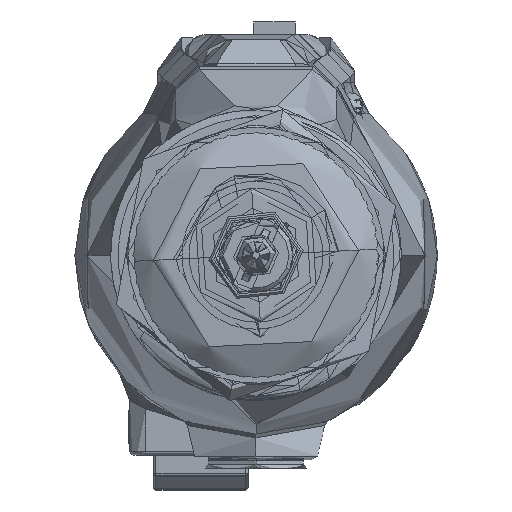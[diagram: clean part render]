
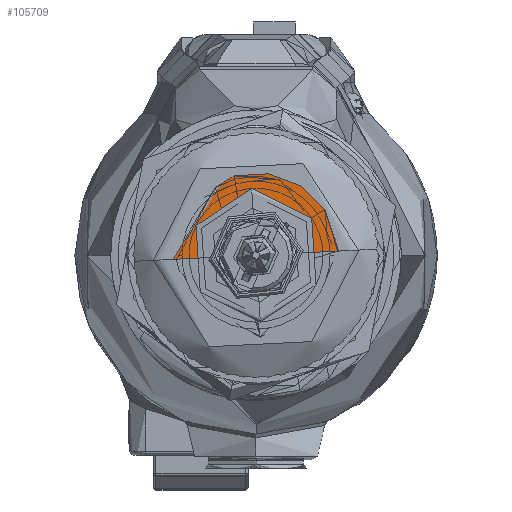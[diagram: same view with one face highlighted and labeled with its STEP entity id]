
A CAD part, front view. The second image highlights one B-rep face of the part: STEP entity #105709.
In plain terms, the highlighted conical face has half-angle 45 degrees and reference radius 10.022 mm.
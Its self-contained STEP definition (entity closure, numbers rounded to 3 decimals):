
#3598 = CARTESIAN_POINT ( 'NONE',  ( 25.6, -1.378, -10.525 ) ) ;
#4949 = CARTESIAN_POINT ( 'NONE',  ( 25.6, -5.301, 9.197 ) ) ;
#5216 = CARTESIAN_POINT ( 'NONE',  ( 25.097, 0., -10.022 ) ) ;
#5719 = CARTESIAN_POINT ( 'NONE',  ( 25.6, -10.525, -1.378 ) ) ;
#7328 = CARTESIAN_POINT ( 'NONE',  ( 25.132, -6.648, -7.6 ) ) ;
#7657 = CARTESIAN_POINT ( 'NONE',  ( 25.196, 0., -10.121 ) ) ;
#8214 = EDGE_CURVE ( 'NONE', #27287, #114881, #52422, .T. ) ;
#11326 = CARTESIAN_POINT ( 'NONE',  ( 25.517, -4.515, 9.461 ) ) ;
#13109 = CARTESIAN_POINT ( 'NONE',  ( 25.6, -10.251, -2.755 ) ) ;
#13924 = CARTESIAN_POINT ( 'NONE',  ( 25.525, -5.319, 8.995 ) ) ;
#14321 = CARTESIAN_POINT ( 'NONE',  ( 25.6, -2.755, 10.251 ) ) ;
#15440 = CARTESIAN_POINT ( 'NONE',  ( 25.1, 0., 0. ) ) ;
#16967 = CARTESIAN_POINT ( 'NONE',  ( 25.525, -10.198, -2.28 ) ) ;
#17699 = CARTESIAN_POINT ( 'NONE',  ( 25.097, 0., 10.022 ) ) ;
#18576 = CARTESIAN_POINT ( 'NONE',  ( 25.1, -9.356, 3.602 ) ) ;
#23365 = VERTEX_POINT ( 'NONE', #56411 ) ;
#23721 = CARTESIAN_POINT ( 'NONE',  ( 25.6, -9.197, 5.301 ) ) ;
#24493 = CARTESIAN_POINT ( 'NONE',  ( 25.156, -4.396, -9.117 ) ) ;
#24735 = CARTESIAN_POINT ( 'NONE',  ( 25.1, -9.356, 3.602 ) ) ;
#24864 = CARTESIAN_POINT ( 'NONE',  ( 25.525, 0., 0. ) ) ;
#25568 = B_SPLINE_CURVE_WITH_KNOTS ( 'NONE', 3,
 ( #103782, #11326, #30019, #113150, #114372, #57309 ),
 .UNSPECIFIED., .F., .F.,
 ( 4, 2, 4 ),
 ( 0., 0.056, 0.112 ),
 .UNSPECIFIED. ) ;
#27286 = EDGE_CURVE ( 'NONE', #31734, #23365, #63490, .T. ) ;
#27287 = VERTEX_POINT ( 'NONE', #99840 ) ;
#28415 = ORIENTED_EDGE ( 'NONE', *, *, #8214, .T. ) ;
#30019 = CARTESIAN_POINT ( 'NONE',  ( 25.509, -3.648, 9.819 ) ) ;
#31734 = VERTEX_POINT ( 'NONE', #7657 ) ;
#32630 = FACE_OUTER_BOUND ( 'NONE', #54611, .T. ) ;
#33670 = CARTESIAN_POINT ( 'NONE',  ( 25.6, 0., -10.525 ) ) ;
#34181 = DIRECTION ( 'NONE',  ( -1., 0., 0. ) ) ;
#35415 = CARTESIAN_POINT ( 'NONE',  ( 25.164, -3.559, -9.484 ) ) ;
#38204 = ORIENTED_EDGE ( 'NONE', *, *, #87299, .F. ) ;
#39947 = VECTOR ( 'NONE', #84063, 1000. ) ;
#40268 = CIRCLE ( 'NONE', #114120, 10.45 ) ;
#41201 = CARTESIAN_POINT ( 'NONE',  ( 25.6, -8.416, -6.468 ) ) ;
#44271 = LINE ( 'NONE', #17699, #39947 ) ;
#47763 = EDGE_CURVE ( 'NONE', #82704, #81748, #25568, .T. ) ;
#48144 = ORIENTED_EDGE ( 'NONE', *, *, #120659, .T. ) ;
#51753 = CARTESIAN_POINT ( 'NONE',  ( 25.196, 0., -10.121 ) ) ;
#52082 = EDGE_CURVE ( 'NONE', #106156, #23365, #71765, .T. ) ;
#52147 = CARTESIAN_POINT ( 'NONE',  ( 25.6, -8.416, 6.468 ) ) ;
#52422 = B_SPLINE_CURVE_WITH_KNOTS ( 'NONE', 3,
 ( #116185, #87691, #14321, #4949, #70141, #52147, #23721, #61564, #88894, #5719, #13109, #78288, #41201, #59968, #120176, #57768, #3598, #33670 ),
 .UNSPECIFIED., .F., .F.,
 ( 4, 2, 2, 2, 2, 2, 2, 2, 4 ),
 ( 0.25, 0.313, 0.375, 0.438, 0.5, 0.563, 0.625, 0.688, 0.75 ),
 .UNSPECIFIED. ) ;
#54407 = CARTESIAN_POINT ( 'NONE',  ( 25.383, -10.352, -0.239 ) ) ;
#54611 = EDGE_LOOP ( 'NONE', ( #107975, #48144, #28415, #38204, #109199, #99773, #71286, #86907 ) ) ;
#56411 = CARTESIAN_POINT ( 'NONE',  ( 25.1, -8.83, -4.746 ) ) ;
#57309 = CARTESIAN_POINT ( 'NONE',  ( 25.477, 0., 10.403 ) ) ;
#57768 = CARTESIAN_POINT ( 'NONE',  ( 25.6, -2.755, -10.251 ) ) ;
#59039 = CARTESIAN_POINT ( 'NONE',  ( 25.6, 0., -10.525 ) ) ;
#59968 = CARTESIAN_POINT ( 'NONE',  ( 25.6, -6.468, -8.416 ) ) ;
#61020 = EDGE_CURVE ( 'NONE', #66032, #82704, #40268, .T. ) ;
#61564 = CARTESIAN_POINT ( 'NONE',  ( 25.6, -10.251, 2.755 ) ) ;
#62285 = DIRECTION ( 'NONE',  ( 1., 0., 0. ) ) ;
#62584 = CARTESIAN_POINT ( 'NONE',  ( 25.454, -10.352, -1.266 ) ) ;
#62740 = CARTESIAN_POINT ( 'NONE',  ( 25.1, -8.83, -4.746 ) ) ;
#63490 = B_SPLINE_CURVE_WITH_KNOTS ( 'NONE', 3,
 ( #51753, #118149, #117756, #35415, #24493, #100660, #7328, #72517, #117366, #62740 ),
 .UNSPECIFIED., .F., .F.,
 ( 4, 2, 2, 2, 4 ),
 ( 0.773, 0.83, 0.887, 0.943, 1. ),
 .UNSPECIFIED. ) ;
#64645 = CONICAL_SURFACE ( 'NONE', #109675, 10.022, 0.785 ) ;
#66032 = VERTEX_POINT ( 'NONE', #117217 ) ;
#66530 = VECTOR ( 'NONE', #104116, 1000. ) ;
#67577 = B_SPLINE_CURVE_WITH_KNOTS ( 'NONE', 3,
 ( #16967, #62584, #54407, #119627, #80541, #24735 ),
 .UNSPECIFIED., .F., .F.,
 ( 4, 2, 4 ),
 ( 0., 0.5, 1. ),
 .UNSPECIFIED. ) ;
#68367 = CARTESIAN_POINT ( 'NONE',  ( 25.097, 0., 0. ) ) ;
#70141 = CARTESIAN_POINT ( 'NONE',  ( 25.6, -6.468, 8.416 ) ) ;
#71286 = ORIENTED_EDGE ( 'NONE', *, *, #116937, .F. ) ;
#71765 = CIRCLE ( 'NONE', #105191, 10.025 ) ;
#72517 = CARTESIAN_POINT ( 'NONE',  ( 25.116, -7.883, -6.284 ) ) ;
#78288 = CARTESIAN_POINT ( 'NONE',  ( 25.6, -9.197, -5.301 ) ) ;
#80541 = CARTESIAN_POINT ( 'NONE',  ( 25.171, -9.775, 2.712 ) ) ;
#81748 = VERTEX_POINT ( 'NONE', #108553 ) ;
#82572 = LINE ( 'NONE', #5216, #66530 ) ;
#82704 = VERTEX_POINT ( 'NONE', #13924 ) ;
#84063 = DIRECTION ( 'NONE',  ( 0.707, 0., 0.707 ) ) ;
#84248 = DIRECTION ( 'NONE',  ( 1., 0., 0. ) ) ;
#86907 = ORIENTED_EDGE ( 'NONE', *, *, #61020, .T. ) ;
#87299 = EDGE_CURVE ( 'NONE', #31734, #114881, #82572, .T. ) ;
#87691 = CARTESIAN_POINT ( 'NONE',  ( 25.6, -1.378, 10.525 ) ) ;
#88894 = CARTESIAN_POINT ( 'NONE',  ( 25.6, -10.525, 1.378 ) ) ;
#99773 = ORIENTED_EDGE ( 'NONE', *, *, #52082, .F. ) ;
#99840 = CARTESIAN_POINT ( 'NONE',  ( 25.6, 0., 10.525 ) ) ;
#100660 = CARTESIAN_POINT ( 'NONE',  ( 25.14, -5.941, -8.175 ) ) ;
#102589 = DIRECTION ( 'NONE',  ( 0., 0., -1. ) ) ;
#103782 = CARTESIAN_POINT ( 'NONE',  ( 25.525, -5.319, 8.995 ) ) ;
#104116 = DIRECTION ( 'NONE',  ( 0.707, 0., -0.707 ) ) ;
#105191 = AXIS2_PLACEMENT_3D ( 'NONE', #15440, #62285, #118915 ) ;
#105709 = ADVANCED_FACE ( 'NONE', ( #32630 ), #64645, .F. ) ;
#106156 = VERTEX_POINT ( 'NONE', #18576 ) ;
#107975 = ORIENTED_EDGE ( 'NONE', *, *, #47763, .T. ) ;
#108553 = CARTESIAN_POINT ( 'NONE',  ( 25.477, 0., 10.403 ) ) ;
#109199 = ORIENTED_EDGE ( 'NONE', *, *, #27286, .T. ) ;
#109675 = AXIS2_PLACEMENT_3D ( 'NONE', #68367, #84248, #102589 ) ;
#113150 = CARTESIAN_POINT ( 'NONE',  ( 25.493, -1.854, 10.294 ) ) ;
#114120 = AXIS2_PLACEMENT_3D ( 'NONE', #24864, #34181, #118536 ) ;
#114372 = CARTESIAN_POINT ( 'NONE',  ( 25.485, -0.926, 10.41 ) ) ;
#114881 = VERTEX_POINT ( 'NONE', #59039 ) ;
#116185 = CARTESIAN_POINT ( 'NONE',  ( 25.6, 0., 10.525 ) ) ;
#116937 = EDGE_CURVE ( 'NONE', #66032, #106156, #67577, .T. ) ;
#117217 = CARTESIAN_POINT ( 'NONE',  ( 25.525, -10.198, -2.28 ) ) ;
#117366 = CARTESIAN_POINT ( 'NONE',  ( 25.108, -8.411, -5.543 ) ) ;
#117756 = CARTESIAN_POINT ( 'NONE',  ( 25.18, -1.815, -9.982 ) ) ;
#118149 = CARTESIAN_POINT ( 'NONE',  ( 25.188, -0.909, -10.113 ) ) ;
#118536 = DIRECTION ( 'NONE',  ( 0., -1., 0. ) ) ;
#118915 = DIRECTION ( 'NONE',  ( 0., 1., 0. ) ) ;
#119627 = CARTESIAN_POINT ( 'NONE',  ( 25.242, -10.065, 1.75 ) ) ;
#120176 = CARTESIAN_POINT ( 'NONE',  ( 25.6, -5.301, -9.197 ) ) ;
#120659 = EDGE_CURVE ( 'NONE', #81748, #27287, #44271, .T. ) ;
